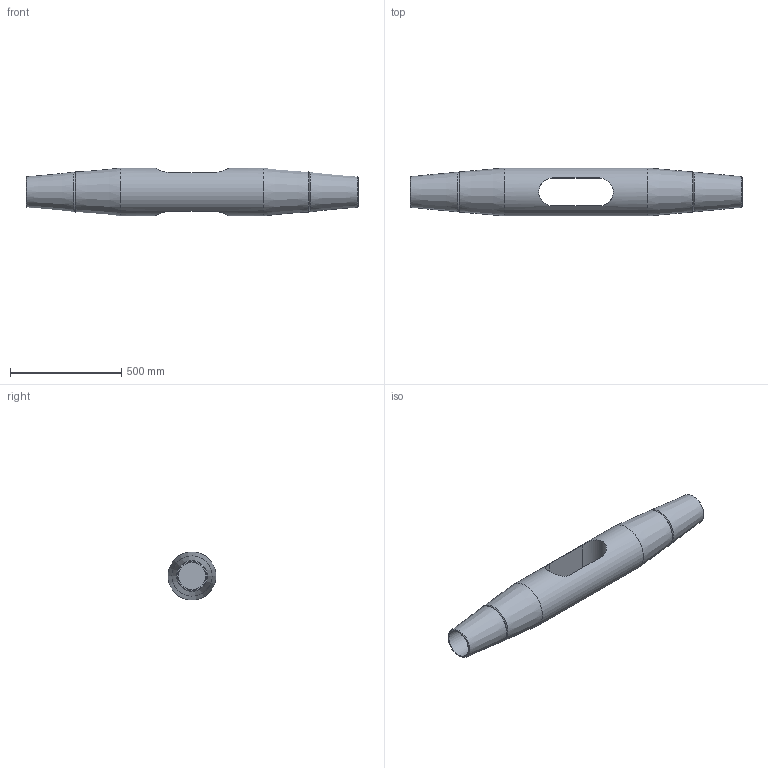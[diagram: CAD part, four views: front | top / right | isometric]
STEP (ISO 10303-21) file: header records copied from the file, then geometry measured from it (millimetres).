
FILE_DESCRIPTION(/* description */ (''),/* implementation_level */ '2;1');
FILE_NAME(/* name */ 'G:\Engineering\700 CAD\Internet-PX-1-step-igs-dxf\520-KMF-Arbeitsdateien\520-120-KMF.stp',/* time_stamp */ '2020-07-02T13:30:46+02:00',/* author */ ('schwarz'),/* organization */ (''),/* preprocessor_version */ 'ST-DEVELOPER v16.1',/* originating_system */ 'Autodesk Inventor 2016',/* authorisation */ '');
FILE_SCHEMA (('AUTOMOTIVE_DESIGN { 1 0 10303 214 3 1 1 }'));
Length unit declared in the file: centimetre
Products named in the file (1): Kreuzmuffen-Set 520 120 Kunde
Bounding box: 1495 x 216 x 216 mm (x, y, z)
Volume: 33247650.3 mm3; surface area: 1139247 mm2
Topology: 1 solids, 1 shells, 21 faces, 41 edges, 24 vertices
Faces by surface type: cone 10, plane 6, cylinder 5
Full cylindrical faces by diameter (mm): 124 x2, 216 x1
Entity records: 653 total; most frequent: CARTESIAN_POINT 206, DIRECTION 84, ORIENTED_EDGE 56, EDGE_LOOP 38, AXIS2_PLACEMENT_3D 38, EDGE_CURVE 28, VERTEX_POINT 24, STYLED_ITEM 22
